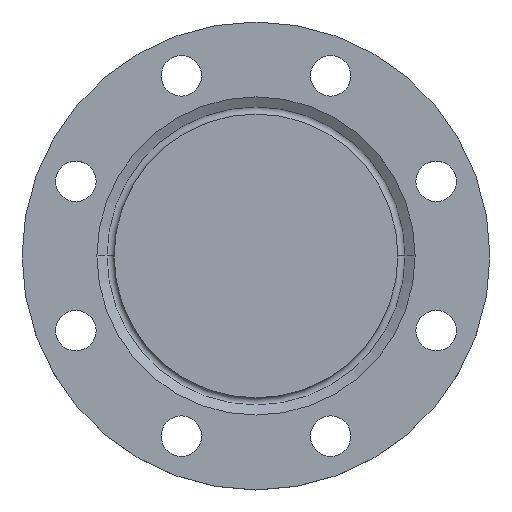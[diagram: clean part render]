
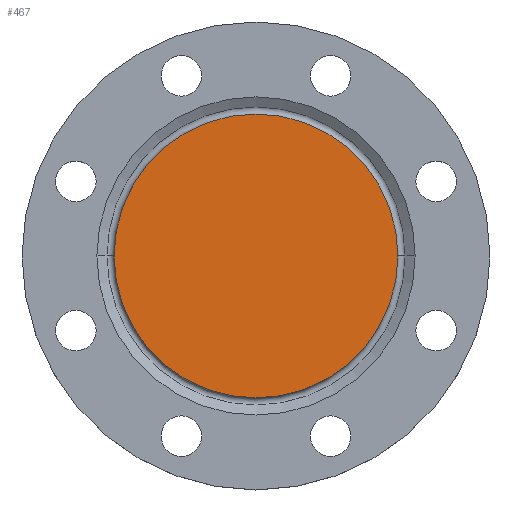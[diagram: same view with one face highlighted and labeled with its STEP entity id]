
A CAD part, top view. The second image highlights one B-rep face of the part: STEP entity #467.
In plain terms, the highlighted planar face has unit normal (0, 0, 1).
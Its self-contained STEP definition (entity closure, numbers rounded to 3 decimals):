
#6 = CIRCLE ( 'NONE', #20, 91. ) ;
#20 = AXIS2_PLACEMENT_3D ( 'NONE', #250, #527, #805 ) ;
#148 = ORIENTED_EDGE ( 'NONE', *, *, #256, .F. ) ;
#155 = ORIENTED_EDGE ( 'NONE', *, *, #729, .F. ) ;
#217 = DIRECTION ( 'NONE',  ( 0., 0., 1. ) ) ;
#219 = EDGE_LOOP ( 'NONE', ( #148, #155 ) ) ;
#238 = CARTESIAN_POINT ( 'NONE',  ( -91., 0., 0. ) ) ;
#248 = DIRECTION ( 'NONE',  ( 0., 0., -1. ) ) ;
#250 = CARTESIAN_POINT ( 'NONE',  ( 0., 0., 0. ) ) ;
#256 = EDGE_CURVE ( 'NONE', #603, #420, #641, .T. ) ;
#282 = FACE_OUTER_BOUND ( 'NONE', #219, .T. ) ;
#420 = VERTEX_POINT ( 'NONE', #735 ) ;
#442 = AXIS2_PLACEMENT_3D ( 'NONE', #861, #248, #525 ) ;
#467 = ADVANCED_FACE ( 'NONE', ( #282 ), #553, .T. ) ;
#497 = DIRECTION ( 'NONE',  ( 1., 0., 0. ) ) ;
#525 = DIRECTION ( 'NONE',  ( -1., 0., 0. ) ) ;
#527 = DIRECTION ( 'NONE',  ( 0., 0., -1. ) ) ;
#553 = PLANE ( 'NONE',  #878 ) ;
#603 = VERTEX_POINT ( 'NONE', #238 ) ;
#641 = CIRCLE ( 'NONE', #442, 91. ) ;
#729 = EDGE_CURVE ( 'NONE', #420, #603, #6, .T. ) ;
#735 = CARTESIAN_POINT ( 'NONE',  ( 91., 0., 0. ) ) ;
#805 = DIRECTION ( 'NONE',  ( -1., 0., 0. ) ) ;
#833 = CARTESIAN_POINT ( 'NONE',  ( 0., 0., 0. ) ) ;
#861 = CARTESIAN_POINT ( 'NONE',  ( 0., 0., 0. ) ) ;
#878 = AXIS2_PLACEMENT_3D ( 'NONE', #833, #217, #497 ) ;
